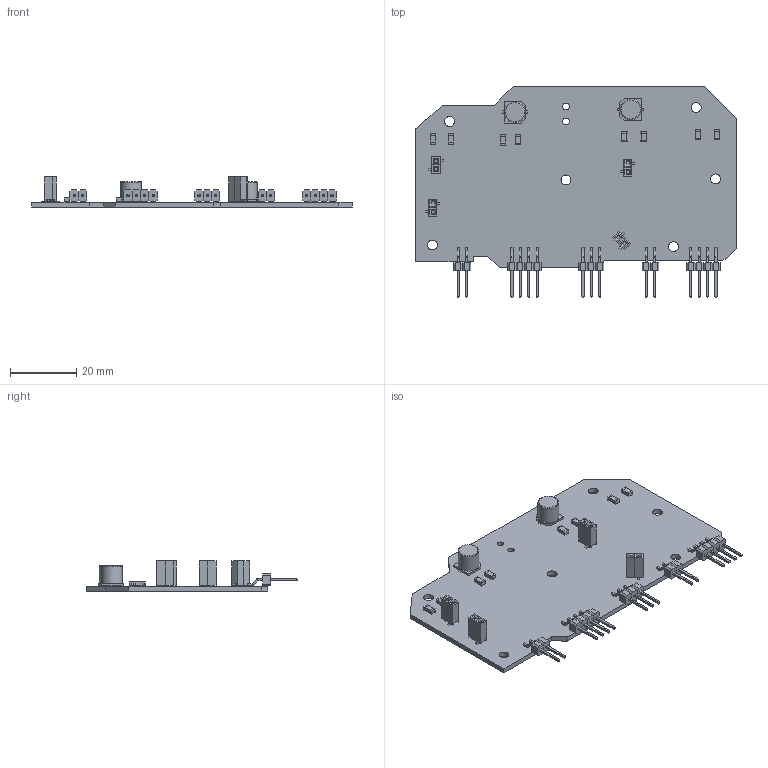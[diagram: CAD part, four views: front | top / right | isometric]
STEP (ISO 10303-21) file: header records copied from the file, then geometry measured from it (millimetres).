
FILE_DESCRIPTION(('KiCad electronic assembly'),'2;1');
FILE_NAME('MyFinalprojectboard.step','2025-06-10T15:02:06',('Pcbnew'),( 'Kicad'),'Open CASCADE STEP processor 7.8','KiCad to STEP converter' ,'Unknown');
FILE_SCHEMA(('AUTOMOTIVE_DESIGN { 1 0 10303 214 1 1 1 1 }'));
Length unit declared in the file: millimetre
Products named in the file (23): MyFinalprojectboard 1; Header_SMD_01x02_P2.54mm_Horizontal_Male; MyFinalprojectboard 1.1.1; MyFinalprojectboard 1.1.2; Header_SMD_01x04_P2.54mm_Horizontal_Male; MyFinalprojectboard 1.2.1; MyFinalprojectboard 1.2.2; Capacitor-1206; Body; Contact; ContactClone; Capacitor_Panasonic-EEE-FN1E101UL; Cylinder; Base; PinSocket-01x02_P2.54mm_Vertical_SMD; MyFinalprojectboard 1.8.1; MyFinalprojectboard 1.8.2; Header_SMD_01x03_P2.54mm_Horizontal_Male; MyFinalprojectboard 1.18.1; MyFinalprojectboard 1.18.2; MyFinalprojectboard_PCB
Assembly tree (35 placements, depth 3):
  MyFinalprojectboard 1
    Header_SMD_01x02_P2.54mm_Horizontal_Male  x2
      MyFinalprojectboard 1.1.1
      MyFinalprojectboard 1.1.2
    Header_SMD_01x04_P2.54mm_Horizontal_Male  x2
      MyFinalprojectboard 1.2.1
      MyFinalprojectboard 1.2.2
    Capacitor-1206  x8
      Body
      Contact
      ContactClone
    Capacitor_Panasonic-EEE-FN1E101UL  x2
      ContactClone
      Contact
      Cylinder
      Base
    PinSocket-01x02_P2.54mm_Vertical_SMD  x4
      MyFinalprojectboard 1.8.1
      MyFinalprojectboard 1.8.2
    Header_SMD_01x03_P2.54mm_Horizontal_Male
      MyFinalprojectboard 1.18.1
      MyFinalprojectboard 1.18.2
    MyFinalprojectboard_PCB
Bounding box: 97.1 x 63.93 x 9.1 mm (x, y, z)
Volume: 8596.4 mm3; surface area: 13298.5 mm2
Topology: 79 solids, 79 shells, 1079 faces, 2345 edges, 1432 vertices
Faces by surface type: plane 1021, revolution 30, cylinder 26, torus 2
Full cylindrical faces by diameter (mm): 2 x2, 3 x6, 6.3 x2
Entity records: 13837 total; most frequent: CARTESIAN_POINT 2312, DIRECTION 2240, ORIENTED_EDGE 2196, EDGE_CURVE 1098, LINE 1052, VECTOR 1052, VERTEX_POINT 657, AXIS2_PLACEMENT_3D 585
